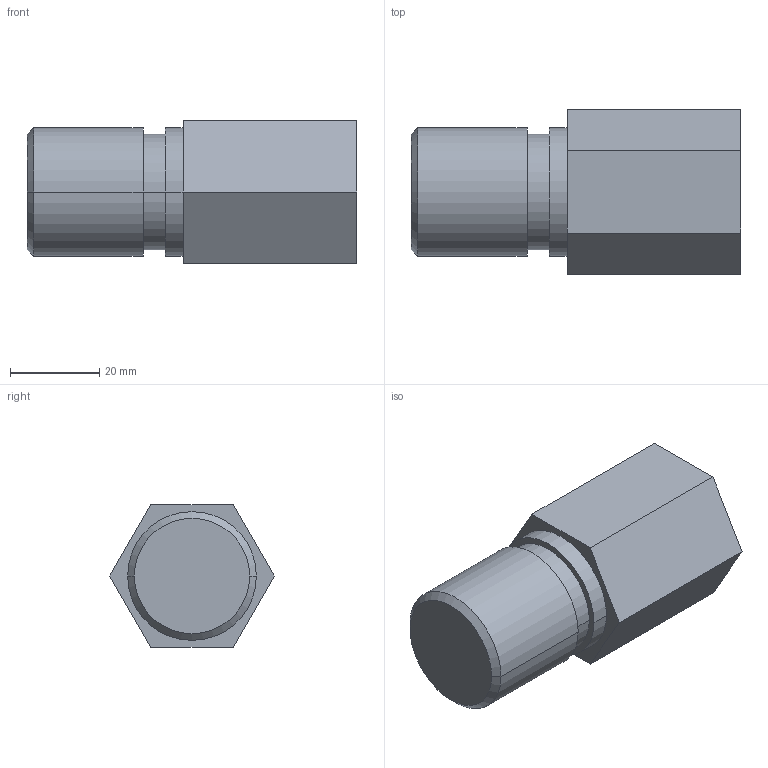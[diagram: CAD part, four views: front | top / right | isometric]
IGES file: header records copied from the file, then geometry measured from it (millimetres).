
Global section: file name: No Iges File Name specified; native system: Autodesk Inventor 2009; preprocessor: AutoDesk Inventor Iges Exporter R2009; author: y-shimohigashi; date: 20080702.095337; units: millimetre
Bounding box: 74 x 36.95 x 32 mm (x, y, z)
Volume: 46334.8 mm3; surface area: 10929.9 mm2
Topology: 1 solids, 1 shells, 22 faces, 46 edges, 30 vertices
Faces by surface type: plane 12, cylinder 6, cone 2, revolution 2
